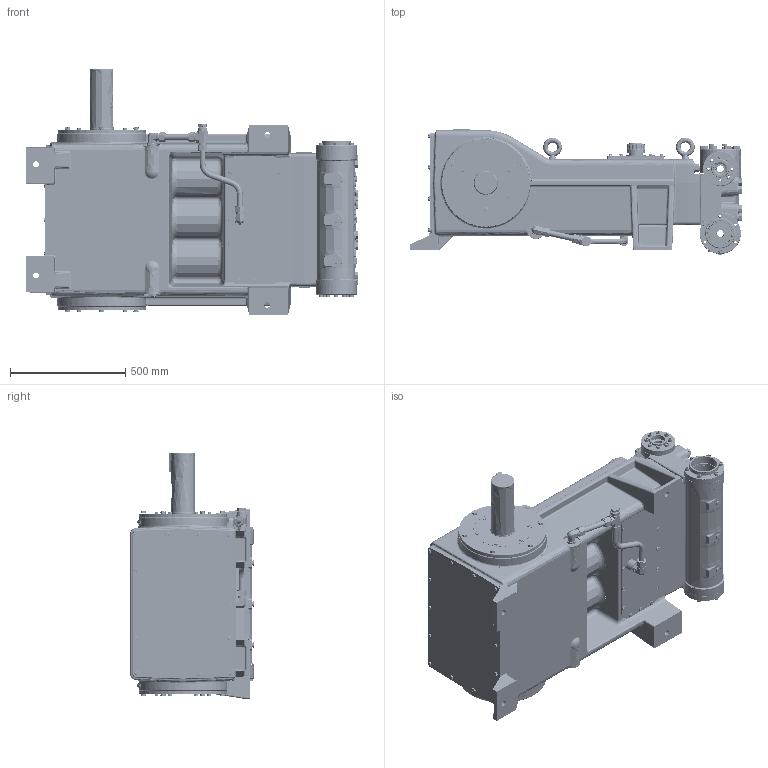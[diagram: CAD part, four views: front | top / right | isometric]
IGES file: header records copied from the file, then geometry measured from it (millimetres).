
Start section: SolidWorks IGES file using analytic representation for surfaces
Global section: file name: Q:\ENG\OUTLINE DWGS\T200 SERIES\T200-M-OUTLINE.IGS; native system: SolidWorks 2018; preprocessor: SolidWorks 2018; author: dhughes; date: 190228.135937; units: inch
Bounding box: 1440.63 x 541.81 x 1068.07 mm (x, y, z)
Surface area: 5759558.6 mm2 (no closed solid volume)
Topology: 0 solids, 0 shells, 4308 faces, 69965 edges, 69912 vertices
Faces by surface type: bspline 2433, revolution 1875
